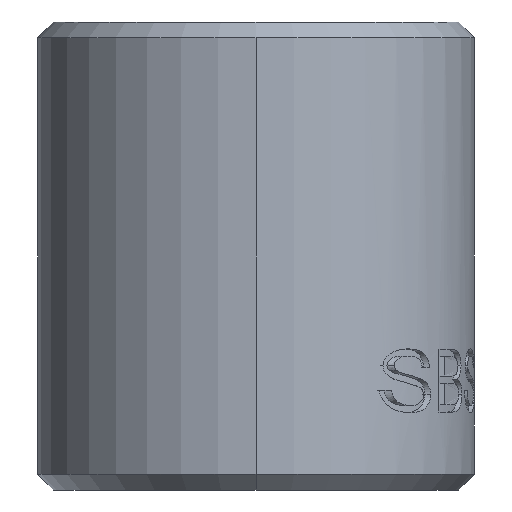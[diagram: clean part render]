
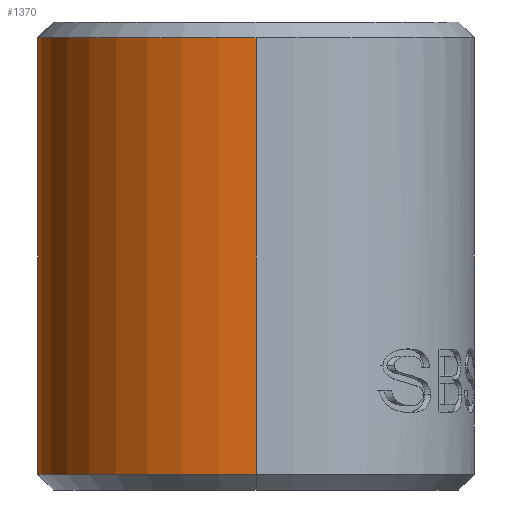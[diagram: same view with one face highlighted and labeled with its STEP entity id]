
A CAD part, left-side view. The second image highlights one B-rep face of the part: STEP entity #1370.
In plain terms, the highlighted cylindrical face has radius 7 mm (diameter 14 mm), a partial arc.
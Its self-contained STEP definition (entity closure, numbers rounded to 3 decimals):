
#251 = CYLINDRICAL_SURFACE ( 'NONE', #5655, 7. ) ;
#267 = ORIENTED_EDGE ( 'NONE', *, *, #4277, .T. ) ;
#816 = CARTESIAN_POINT ( 'NONE',  ( 52., 25., 0.5 ) ) ;
#1098 = EDGE_CURVE ( 'NONE', #2538, #2878, #5249, .T. ) ;
#1311 = DIRECTION ( 'NONE',  ( -1., 0., 0. ) ) ;
#1342 = DIRECTION ( 'NONE',  ( 0., 0., -1. ) ) ;
#1370 = ADVANCED_FACE ( 'NONE', ( #4589 ), #251, .T. ) ;
#1402 = CIRCLE ( 'NONE', #4928, 7. ) ;
#1417 = DIRECTION ( 'NONE',  ( 0., 0., -1. ) ) ;
#1543 = VERTEX_POINT ( 'NONE', #2747 ) ;
#1645 = DIRECTION ( 'NONE',  ( 0., 0., -1. ) ) ;
#1819 = AXIS2_PLACEMENT_3D ( 'NONE', #2075, #3435, #3494 ) ;
#2075 = CARTESIAN_POINT ( 'NONE',  ( 45., 25., 14.5 ) ) ;
#2197 = CARTESIAN_POINT ( 'NONE',  ( 45., 25., 0.5 ) ) ;
#2231 = ORIENTED_EDGE ( 'NONE', *, *, #3896, .F. ) ;
#2353 = CARTESIAN_POINT ( 'NONE',  ( 52., 25., 15. ) ) ;
#2538 = VERTEX_POINT ( 'NONE', #816 ) ;
#2540 = CARTESIAN_POINT ( 'NONE',  ( 52., 25., 14.5 ) ) ;
#2729 = ORIENTED_EDGE ( 'NONE', *, *, #5419, .T. ) ;
#2747 = CARTESIAN_POINT ( 'NONE',  ( 38., 25., 14.5 ) ) ;
#2878 = VERTEX_POINT ( 'NONE', #5321 ) ;
#3006 = LINE ( 'NONE', #3581, #4538 ) ;
#3043 = VERTEX_POINT ( 'NONE', #6167 ) ;
#3435 = DIRECTION ( 'NONE',  ( 0., 0., -1. ) ) ;
#3457 = EDGE_CURVE ( 'NONE', #3043, #5886, #1402, .T. ) ;
#3494 = DIRECTION ( 'NONE',  ( -1., 0., 0. ) ) ;
#3581 = CARTESIAN_POINT ( 'NONE',  ( 38., 25., 15. ) ) ;
#3684 = ORIENTED_EDGE ( 'NONE', *, *, #1098, .T. ) ;
#3740 = LINE ( 'NONE', #2353, #4451 ) ;
#3761 = ORIENTED_EDGE ( 'NONE', *, *, #3457, .T. ) ;
#3763 = DIRECTION ( 'NONE',  ( -1., 0., 0. ) ) ;
#3847 = CIRCLE ( 'NONE', #1819, 7. ) ;
#3896 = EDGE_CURVE ( 'NONE', #1543, #2878, #3006, .T. ) ;
#4277 = EDGE_CURVE ( 'NONE', #1543, #3043, #3847, .T. ) ;
#4451 = VECTOR ( 'NONE', #5181, 1000. ) ;
#4538 = VECTOR ( 'NONE', #1645, 1000. ) ;
#4589 = FACE_OUTER_BOUND ( 'NONE', #4697, .T. ) ;
#4647 = AXIS2_PLACEMENT_3D ( 'NONE', #2197, #5533, #5568 ) ;
#4697 = EDGE_LOOP ( 'NONE', ( #267, #3761, #2729, #3684, #2231 ) ) ;
#4928 = AXIS2_PLACEMENT_3D ( 'NONE', #5640, #1342, #1311 ) ;
#5181 = DIRECTION ( 'NONE',  ( 0., 0., -1. ) ) ;
#5249 = CIRCLE ( 'NONE', #4647, 7. ) ;
#5321 = CARTESIAN_POINT ( 'NONE',  ( 38., 25., 0.5 ) ) ;
#5419 = EDGE_CURVE ( 'NONE', #5886, #2538, #3740, .T. ) ;
#5533 = DIRECTION ( 'NONE',  ( 0., 0., 1. ) ) ;
#5568 = DIRECTION ( 'NONE',  ( -1., 0., 0. ) ) ;
#5640 = CARTESIAN_POINT ( 'NONE',  ( 45., 25., 14.5 ) ) ;
#5655 = AXIS2_PLACEMENT_3D ( 'NONE', #5713, #1417, #3763 ) ;
#5713 = CARTESIAN_POINT ( 'NONE',  ( 45., 25., 15. ) ) ;
#5886 = VERTEX_POINT ( 'NONE', #2540 ) ;
#6167 = CARTESIAN_POINT ( 'NONE',  ( 45., 32., 14.5 ) ) ;
